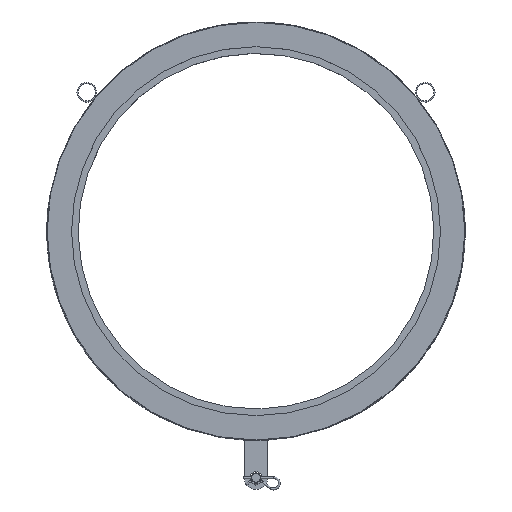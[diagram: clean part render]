
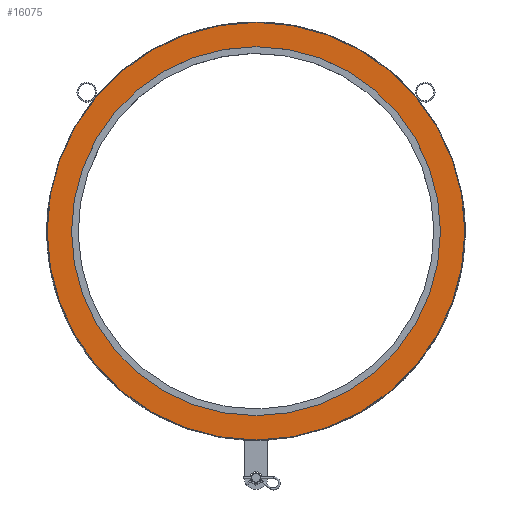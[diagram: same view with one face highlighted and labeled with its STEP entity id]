
A CAD part, top view. The second image highlights one B-rep face of the part: STEP entity #16075.
In plain terms, the highlighted planar face has unit normal (0, 0, 1).
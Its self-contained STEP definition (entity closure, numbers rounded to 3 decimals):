
#549=FACE_BOUND('',#3604,.T.);
#1759=PLANE('',#16951);
#2626=FACE_OUTER_BOUND('',#3603,.T.);
#3603=EDGE_LOOP('',(#14810));
#3604=EDGE_LOOP('',(#14811));
#6211=CIRCLE('',#16947,470.);
#6212=CIRCLE('',#16949,532.);
#7787=VERTEX_POINT('',#38615);
#7788=VERTEX_POINT('',#38619);
#10143=EDGE_CURVE('',#7787,#7787,#6211,.T.);
#10145=EDGE_CURVE('',#7788,#7788,#6212,.T.);
#14810=ORIENTED_EDGE('',*,*,#10145,.F.);
#14811=ORIENTED_EDGE('',*,*,#10143,.T.);
#16075=ADVANCED_FACE('',(#2626,#549),#1759,.T.);
#16947=AXIS2_PLACEMENT_3D('',#38616,#19697,#19698);
#16949=AXIS2_PLACEMENT_3D('',#38620,#19702,#19703);
#16951=AXIS2_PLACEMENT_3D('',#38623,#19707,#19708);
#19697=DIRECTION('center_axis',(0.,0.,
-1.));
#19698=DIRECTION('ref_axis',(-1.,0.,0.));
#19702=DIRECTION('center_axis',(0.,0.,
-1.));
#19703=DIRECTION('ref_axis',(-1.,0.,0.));
#19707=DIRECTION('center_axis',(0.,0.,
1.));
#19708=DIRECTION('ref_axis',(-1.,0.,0.));
#38615=CARTESIAN_POINT('',(470.,0.,150.));
#38616=CARTESIAN_POINT('Origin',(0.,0.,
150.));
#38619=CARTESIAN_POINT('',(532.,0.,150.));
#38620=CARTESIAN_POINT('Origin',(0.,0.,
150.));
#38623=CARTESIAN_POINT('Origin',(0.,0.,
150.));
